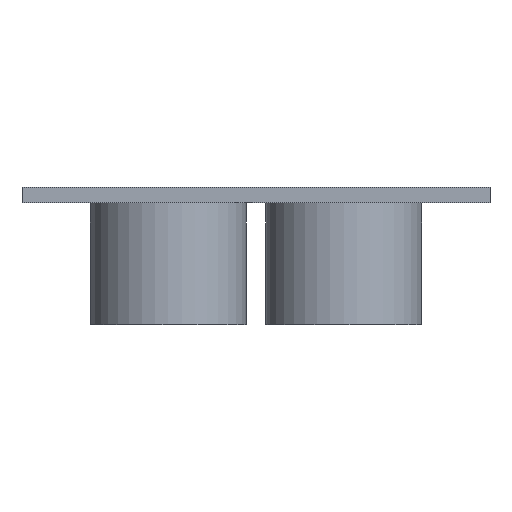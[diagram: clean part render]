
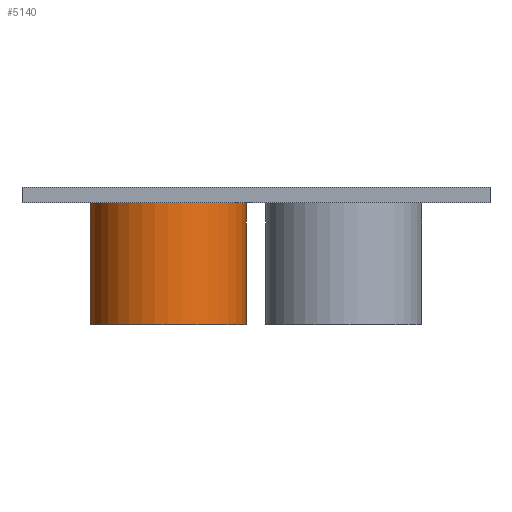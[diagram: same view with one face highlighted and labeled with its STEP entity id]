
A CAD part, front view. The second image highlights one B-rep face of the part: STEP entity #5140.
In plain terms, the highlighted cylindrical face has radius 8 mm (diameter 16 mm), a full revolution.
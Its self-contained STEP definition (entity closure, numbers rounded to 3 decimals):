
#5140 = ADVANCED_FACE('',(#5141),#5155,.T.);
#5141 = FACE_BOUND('',#5142,.F.);
#5142 = EDGE_LOOP('',(#5143,#5173,#5200,#5201));
#5143 = ORIENTED_EDGE('',*,*,#5144,.T.);
#5144 = EDGE_CURVE('',#5145,#5147,#5149,.T.);
#5145 = VERTEX_POINT('',#5146);
#5146 = CARTESIAN_POINT('',(8.,0.,-12.5));
#5147 = VERTEX_POINT('',#5148);
#5148 = CARTESIAN_POINT('',(8.,0.,0.));
#5149 = SEAM_CURVE('',#5150,(#5154,#5166),.PCURVE_S1.);
#5150 = LINE('',#5151,#5152);
#5151 = CARTESIAN_POINT('',(8.,0.,-12.5));
#5152 = VECTOR('',#5153,1.);
#5153 = DIRECTION('',(0.,0.,1.));
#5154 = PCURVE('',#5155,#5160);
#5155 = CYLINDRICAL_SURFACE('',#5156,8.);
#5156 = AXIS2_PLACEMENT_3D('',#5157,#5158,#5159);
#5157 = CARTESIAN_POINT('',(0.,0.,-12.5));
#5158 = DIRECTION('',(-0.,-0.,-1.));
#5159 = DIRECTION('',(1.,0.,0.));
#5160 = DEFINITIONAL_REPRESENTATION('',(#5161),#5165);
#5161 = LINE('',#5162,#5163);
#5162 = CARTESIAN_POINT('',(-0.,0.));
#5163 = VECTOR('',#5164,1.);
#5164 = DIRECTION('',(-0.,-1.));
#5165 = ( GEOMETRIC_REPRESENTATION_CONTEXT(2) 
PARAMETRIC_REPRESENTATION_CONTEXT() REPRESENTATION_CONTEXT('2D SPACE',''
  ) );
#5166 = PCURVE('',#5155,#5167);
#5167 = DEFINITIONAL_REPRESENTATION('',(#5168),#5172);
#5168 = LINE('',#5169,#5170);
#5169 = CARTESIAN_POINT('',(-6.283,0.));
#5170 = VECTOR('',#5171,1.);
#5171 = DIRECTION('',(-0.,-1.));
#5172 = ( GEOMETRIC_REPRESENTATION_CONTEXT(2) 
PARAMETRIC_REPRESENTATION_CONTEXT() REPRESENTATION_CONTEXT('2D SPACE',''
  ) );
#5173 = ORIENTED_EDGE('',*,*,#5174,.T.);
#5174 = EDGE_CURVE('',#5147,#5147,#5175,.T.);
#5175 = SURFACE_CURVE('',#5176,(#5181,#5188),.PCURVE_S1.);
#5176 = CIRCLE('',#5177,8.);
#5177 = AXIS2_PLACEMENT_3D('',#5178,#5179,#5180);
#5178 = CARTESIAN_POINT('',(0.,0.,0.));
#5179 = DIRECTION('',(0.,0.,1.));
#5180 = DIRECTION('',(1.,0.,0.));
#5181 = PCURVE('',#5155,#5182);
#5182 = DEFINITIONAL_REPRESENTATION('',(#5183),#5187);
#5183 = LINE('',#5184,#5185);
#5184 = CARTESIAN_POINT('',(-0.,-12.5));
#5185 = VECTOR('',#5186,1.);
#5186 = DIRECTION('',(-1.,0.));
#5187 = ( GEOMETRIC_REPRESENTATION_CONTEXT(2) 
PARAMETRIC_REPRESENTATION_CONTEXT() REPRESENTATION_CONTEXT('2D SPACE',''
  ) );
#5188 = PCURVE('',#5189,#5194);
#5189 = PLANE('',#5190);
#5190 = AXIS2_PLACEMENT_3D('',#5191,#5192,#5193);
#5191 = CARTESIAN_POINT('',(0.,0.,0.));
#5192 = DIRECTION('',(0.,0.,1.));
#5193 = DIRECTION('',(1.,0.,-0.));
#5194 = DEFINITIONAL_REPRESENTATION('',(#5195),#5199);
#5195 = CIRCLE('',#5196,8.);
#5196 = AXIS2_PLACEMENT_2D('',#5197,#5198);
#5197 = CARTESIAN_POINT('',(0.,0.));
#5198 = DIRECTION('',(1.,0.));
#5199 = ( GEOMETRIC_REPRESENTATION_CONTEXT(2) 
PARAMETRIC_REPRESENTATION_CONTEXT() REPRESENTATION_CONTEXT('2D SPACE',''
  ) );
#5200 = ORIENTED_EDGE('',*,*,#5144,.F.);
#5201 = ORIENTED_EDGE('',*,*,#5202,.F.);
#5202 = EDGE_CURVE('',#5145,#5145,#5203,.T.);
#5203 = SURFACE_CURVE('',#5204,(#5209,#5216),.PCURVE_S1.);
#5204 = CIRCLE('',#5205,8.);
#5205 = AXIS2_PLACEMENT_3D('',#5206,#5207,#5208);
#5206 = CARTESIAN_POINT('',(0.,0.,-12.5));
#5207 = DIRECTION('',(0.,0.,1.));
#5208 = DIRECTION('',(1.,0.,0.));
#5209 = PCURVE('',#5155,#5210);
#5210 = DEFINITIONAL_REPRESENTATION('',(#5211),#5215);
#5211 = LINE('',#5212,#5213);
#5212 = CARTESIAN_POINT('',(-0.,0.));
#5213 = VECTOR('',#5214,1.);
#5214 = DIRECTION('',(-1.,0.));
#5215 = ( GEOMETRIC_REPRESENTATION_CONTEXT(2) 
PARAMETRIC_REPRESENTATION_CONTEXT() REPRESENTATION_CONTEXT('2D SPACE',''
  ) );
#5216 = PCURVE('',#5217,#5222);
#5217 = PLANE('',#5218);
#5218 = AXIS2_PLACEMENT_3D('',#5219,#5220,#5221);
#5219 = CARTESIAN_POINT('',(0.,0.,-12.5
    ));
#5220 = DIRECTION('',(0.,0.,1.));
#5221 = DIRECTION('',(1.,0.,-0.));
#5222 = DEFINITIONAL_REPRESENTATION('',(#5223),#5227);
#5223 = CIRCLE('',#5224,8.);
#5224 = AXIS2_PLACEMENT_2D('',#5225,#5226);
#5225 = CARTESIAN_POINT('',(0.,0.));
#5226 = DIRECTION('',(1.,0.));
#5227 = ( GEOMETRIC_REPRESENTATION_CONTEXT(2) 
PARAMETRIC_REPRESENTATION_CONTEXT() REPRESENTATION_CONTEXT('2D SPACE',''
  ) );
